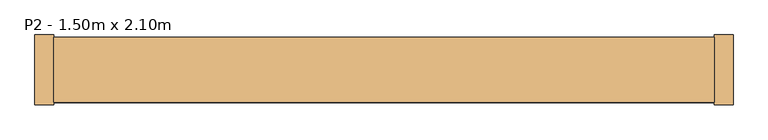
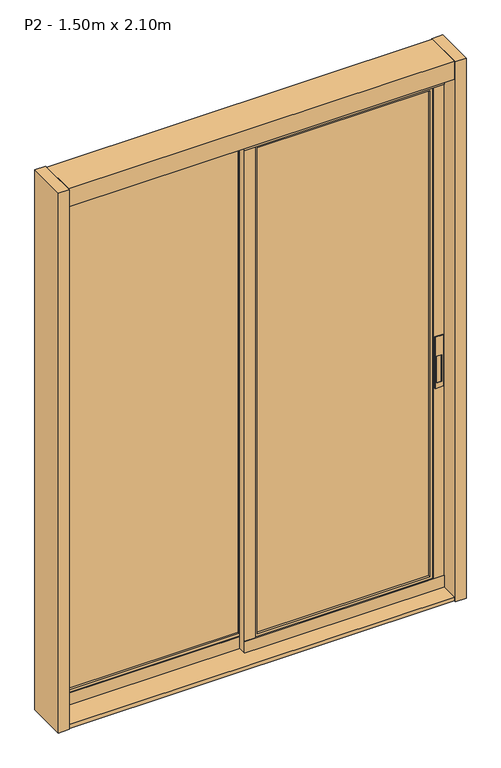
"""IFC4 building model written with IfcOpenShell, lengths in millimetres: door geometry, Porta de Correr - 2 Folhas - ComPainel 1 : P2 - 1.50m x 2.10m."""

from ifc_helpers import new_model, si_unit, frame, origin, origin_with_axes, place, context, project, spatial, polyline, outline, extrude, faceted_brep, source, transform, mapped, element, save


def p2_1_50m_x_2_10m_2a77f288(model_context):
    return source(origin(), model_context, "Body", "SolidModel", [
        extrude(outline(polyline([(1000.0, 734.2060771), (1000.0, 704.2060771), (800.0, 704.2060771), (800.0, 734.2060771), (1000.0, 734.2060771)]), holes=[polyline([(924.4849874, 711.0294364), (924.4849874, 728.1448294), (820.0, 728.1448294), (820.0, 711.0294364), (924.4849874, 711.0294364)])]), frame((0.0, -7.3991119, 0.0), z_axis=(0.0, 1.0, 0.0), x_axis=(0.0, 0.0, 1.0)), (0.0, 0.0, 1.0), 2.3991119),
        extrude(outline(polyline([(689.2060771, 7.672758), (54.2060771, 7.672758), (54.2060771, 12.9358747), (689.2060771, 12.9358747), (689.2060771, 7.672758)])), frame((0.0, 0.0, 70.0), z_axis=(0.0, 0.0, 1.0), x_axis=(1.0, 0.0, 0.0)), (0.0, 0.0, 1.0), 1890.0),
        faceted_brep([(4.2060771, -5.0, 2030.0), (4.2060771, 25.0, 2030.0), (4.2060771, 25.0, 1970.0), (4.2060771, 24.375, 1970.0), (4.2060771, 24.375, 60.0), (4.2060771, 25.0, 60.0), (4.2060771, 25.0, 0.0), (4.2060771, -5.0, 0.0), (4.2060771, -5.0, 60.0), (4.2060771, -4.375, 60.0), (4.2060771, -4.375, 1970.0), (4.2060771, -5.0, 1970.0), (739.2060771, -5.0, 2030.0), (739.2060771, -5.0, 1970.0), (739.2060771, -3.75, 1970.0), (739.2060771, -3.75, 60.0), (739.2060771, -5.0, 60.0), (739.2060771, -5.0, 0.0), (739.2060771, 25.0, 0.0), (739.2060771, 25.0, 60.0), (739.2060771, 23.75, 60.0), (739.2060771, 23.75, 1970.0), (739.2060771, 25.0, 1970.0), (739.2060771, 25.0, 2030.0), (699.2060771, 23.75, 1970.0), (699.2060771, 20.0, 1970.0), (44.2060771, 20.0, 1970.0), (44.2060771, 24.375, 1970.0), (699.2060771, 20.0, 60.0), (44.2060771, 20.0, 60.0), (689.2060771, 20.0, 1960.0), (54.2060771, 20.0, 1960.0), (54.2060771, 20.0, 70.0), (689.2060771, 20.0, 70.0), (54.2060771, 0.0, 1960.0), (689.2060771, 0.0, 1960.0), (699.2060771, 0.0, 1970.0), (44.2060771, 0.0, 1970.0), (44.2060771, 0.0, 60.0), (699.2060771, 0.0, 60.0), (689.2060771, 0.0, 70.0), (54.2060771, 0.0, 70.0), (44.2060771, -4.375, 1970.0), (699.2060771, -3.75, 1970.0), (44.2060771, 24.375, 60.0), (44.2060771, -4.375, 60.0), (699.2060771, 23.75, 60.0), (699.2060771, -3.75, 60.0)], [[[0, 1, 2, 3, 4, 5, 6, 7, 8, 9, 10, 11]], [[12, 13, 14, 15, 16, 17, 18, 19, 20, 21, 22, 23]], [[1, 0, 12, 23]], [[2, 1, 23, 22]], [[2, 22, 21, 24, 25, 26, 27, 3]], [[26, 25, 28, 29], [30, 31, 32, 33]], [[34, 31, 30, 35]], [[36, 37, 38, 39], [34, 35, 40, 41]], [[13, 11, 10, 42, 37, 36, 43, 14]], [[0, 11, 13, 12]], [[4, 3, 27, 44]], [[44, 27, 26, 29]], [[31, 34, 41, 32]], [[42, 45, 38, 37]], [[10, 9, 45, 42]], [[21, 20, 46, 24]], [[24, 46, 28, 25]], [[35, 30, 33, 40]], [[47, 43, 36, 39]], [[15, 14, 43, 47]], [[18, 17, 7, 6]], [[19, 18, 6, 5]], [[19, 5, 4, 44, 29, 28, 46, 20]], [[41, 40, 33, 32]], [[8, 16, 15, 47, 39, 38, 45, 9]], [[17, 16, 8, 7]]]),
        extrude(outline(polyline([(4.2060771, 37.672758), (-630.7939229, 37.672758), (-630.7939229, 42.9358747), (4.2060771, 42.9358747), (4.2060771, 37.672758)])), frame((0.0, 0.0, 70.0), z_axis=(0.0, 0.0, 1.0), x_axis=(1.0, 0.0, 0.0)), (0.0, 0.0, 1.0), 1890.0),
        faceted_brep([(-680.7939229, 25.0, 2030.0), (-680.7939229, 55.0, 2030.0), (-680.7939229, 55.0, 1970.0), (-680.7939229, 54.375, 1970.0), (-680.7939229, 54.375, 60.0), (-680.7939229, 55.0, 60.0), (-680.7939229, 55.0, 0.0), (-680.7939229, 25.0, 0.0), (-680.7939229, 25.0, 60.0), (-680.7939229, 25.625, 60.0), (-680.7939229, 25.625, 1970.0), (-680.7939229, 25.0, 1970.0), (54.2060771, 25.0, 2030.0), (54.2060771, 25.0, 1970.0), (54.2060771, 26.25, 1970.0), (54.2060771, 26.25, 60.0), (54.2060771, 25.0, 60.0), (54.2060771, 25.0, 0.0), (54.2060771, 55.0, 0.0), (54.2060771, 55.0, 60.0), (54.2060771, 53.75, 60.0), (54.2060771, 53.75, 1970.0), (54.2060771, 55.0, 1970.0), (54.2060771, 55.0, 2030.0), (14.2060771, 53.75, 1970.0), (14.2060771, 50.0, 1970.0), (-640.7939229, 50.0, 1970.0), (-640.7939229, 54.375, 1970.0), (14.2060771, 50.0, 60.0), (-640.7939229, 50.0, 60.0), (4.2060771, 50.0, 1960.0), (-630.7939229, 50.0, 1960.0), (-630.7939229, 50.0, 70.0), (4.2060771, 50.0, 70.0), (-630.7939229, 30.0, 1960.0), (4.2060771, 30.0, 1960.0), (14.2060771, 30.0, 1970.0), (-640.7939229, 30.0, 1970.0), (-640.7939229, 30.0, 60.0), (14.2060771, 30.0, 60.0), (4.2060771, 30.0, 70.0), (-630.7939229, 30.0, 70.0), (-640.7939229, 25.625, 1970.0), (14.2060771, 26.25, 1970.0), (-640.7939229, 54.375, 60.0), (-640.7939229, 25.625, 60.0), (14.2060771, 53.75, 60.0), (14.2060771, 26.25, 60.0)], [[[0, 1, 2, 3, 4, 5, 6, 7, 8, 9, 10, 11]], [[12, 13, 14, 15, 16, 17, 18, 19, 20, 21, 22, 23]], [[1, 0, 12, 23]], [[2, 1, 23, 22]], [[2, 22, 21, 24, 25, 26, 27, 3]], [[26, 25, 28, 29], [30, 31, 32, 33]], [[34, 31, 30, 35]], [[36, 37, 38, 39], [34, 35, 40, 41]], [[13, 11, 10, 42, 37, 36, 43, 14]], [[0, 11, 13, 12]], [[4, 3, 27, 44]], [[44, 27, 26, 29]], [[31, 34, 41, 32]], [[42, 45, 38, 37]], [[10, 9, 45, 42]], [[21, 20, 46, 24]], [[24, 46, 28, 25]], [[35, 30, 33, 40]], [[47, 43, 36, 39]], [[15, 14, 43, 47]], [[18, 17, 7, 6]], [[19, 18, 6, 5]], [[19, 5, 4, 44, 29, 28, 46, 20]], [[41, 40, 33, 32]], [[8, 16, 15, 47, 39, 38, 45, 9]], [[17, 16, 8, 7]]]),
        extrude(outline(polyline([(739.2060771, -70.0), (-680.7939229, -70.0), (-680.7939229, 70.0), (739.2060771, 70.0), (739.2060771, -70.0)])), frame((0.0, 0.0, 2030.0), z_axis=(0.0, 0.0, 1.0), x_axis=(1.0, 0.0, 0.0)), (0.0, 0.0, 1.0), 70.0),
        extrude(outline(polyline([(739.2060771, -70.0), (-680.7939229, -70.0), (-680.7939229, 70.0), (739.2060771, 70.0), (739.2060771, -70.0)])), origin_with_axes(), (0.0, 0.0, 1.0), 15.0),
        extrude(outline(polyline([(-680.7939229, -75.0), (-720.7939229, -75.0), (-720.7939229, 75.0), (-680.7939229, 75.0), (-680.7939229, -75.0)])), origin_with_axes(), (0.0, 0.0, 1.0), 2100.0),
        extrude(outline(polyline([(779.2060771, -75.0), (739.2060771, -75.0), (739.2060771, 75.0), (779.2060771, 75.0), (779.2060771, -75.0)])), origin_with_axes(), (0.0, 0.0, 1.0), 2100.0),
    ])


if __name__ == "__main__":
    model = new_model("IFC4")
    model_context = context("Model", 3, world=origin())
    ifc_project = project(units=[si_unit("LENGTHUNIT", "METRE", prefix="MILLI")], contexts=[model_context])
    site = spatial("IfcSite", under=ifc_project)
    building = spatial("IfcBuilding", under=site)
    placement = place(None, origin())
    p2_1_50m_x_2_10m_shape = p2_1_50m_x_2_10m_2a77f288(model_context)
    element("IfcDoor", 1, ObjectType="Porta de Correr - 2 Folhas - ComPainel 1 : P2 - 1.50m x 2.10m", at=placement, inside=building, context=model_context, shape_type="MappedRepresentation", body=[
        mapped(p2_1_50m_x_2_10m_shape, transform((0.0, 0.0, 0.0), x_axis=(1.0, 0.0, 0.0), y_axis=(0.0, 1.0, 0.0), z_axis=(0.0, 0.0, 1.0))),
    ])
    save(model, "model.ifc")
